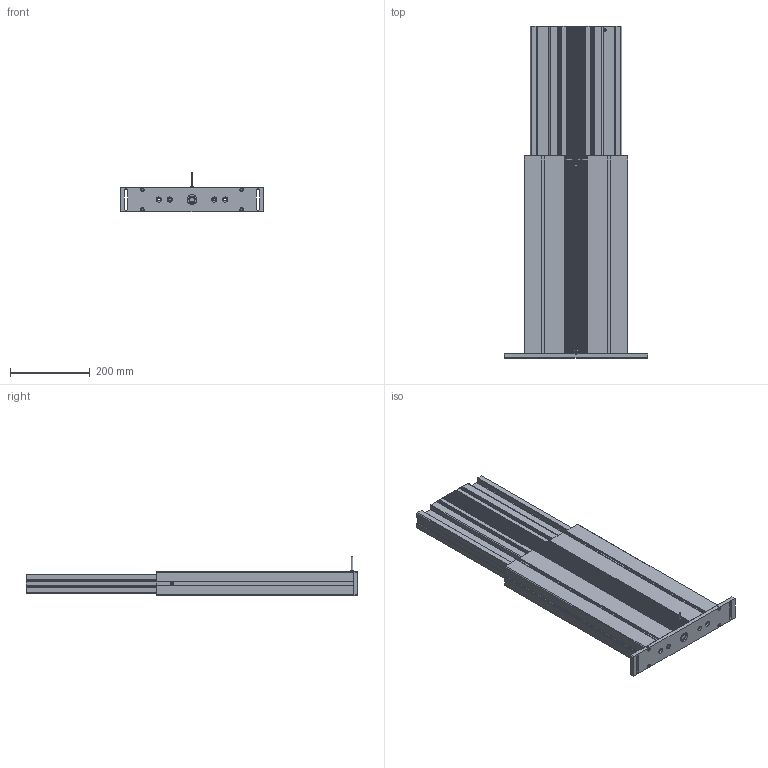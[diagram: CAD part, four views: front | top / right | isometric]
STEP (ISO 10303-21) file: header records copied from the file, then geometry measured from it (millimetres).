
FILE_DESCRIPTION(/* description */ ('Unknown'),/* implementation_level */ '2;1');
FILE_NAME(/* name */ '306.00633_06-ausgefahren',/* time_stamp */ '2022-07-05T17:25:22+02:00',/* author */ ('Unknown'),/* organization */ ('Unknown'),/* preprocessor_version */ 'ST-DEVELOPER v18.102',/* originating_system */ 'Solid Edge',/* authorisation */ 'Unknown');
FILE_SCHEMA (('AUTOMOTIVE_DESIGN {1 0 10303 214 3 1 1}'));
Products named in the file (13): 306.00633; 126.00146; 119.00305; 119.00404; 142.00166; 142.00341; 142.00081; 113.00002; 124.00123; 143.00046; 142.00031; 107.00028_oa_0; 125.00033
Assembly tree (16 placements, depth 3):
  306.00633
    126.00146
    119.00305
    119.00404
    142.00166  x4
    142.00341  x2
    142.00081
    113.00002
    124.00123
    143.00046
    142.00031
    107.00028_oa_0
      125.00033
Bounding box: 360 x 830 x 98 mm (x, y, z)
Volume: 2646143.5 mm3; surface area: 1572627.5 mm2
Topology: 15 solids, 15 shells, 2213 faces, 6455 edges, 4300 vertices
Faces by surface type: plane 1277, cylinder 907, torus 15, cone 14
Full cylindrical faces by diameter (mm): 1.8 x2, 2.2 x1, 2.78 x1, 3.242 x4, 3.4 x1, 3.5 x1, 4 x3, 4.2 x1, 5 x5, 5.5 x4, 6 x1, 6.6 x4, 6.917 x2, 7 x2, 8 x1, 8.5 x4, 8.7 x4, 9 x2, 10 x1, 12.5 x1, 13 x6, 13.5 x1, 13.9 x2, 25 x1, 30 x2
Entity records: 86568 total; most frequent: CARTESIAN_POINT 13264, ORIENTED_EDGE 12492, DIRECTION 12210, EDGE_CURVE 6246, LINE 4234, VECTOR 4234, VERTEX_POINT 4203, AXIS2_PLACEMENT_3D 3988
